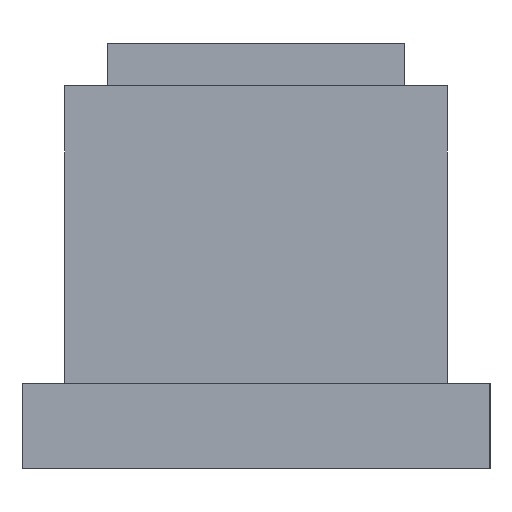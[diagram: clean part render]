
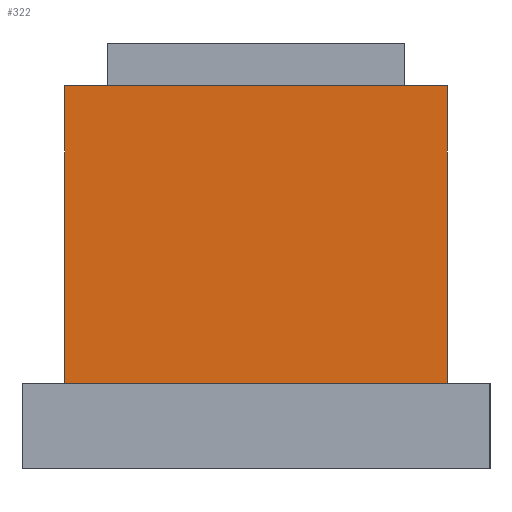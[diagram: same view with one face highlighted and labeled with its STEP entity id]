
A CAD part, left-side view. The second image highlights one B-rep face of the part: STEP entity #322.
In plain terms, the highlighted planar face has unit normal (-1, 0, 0).
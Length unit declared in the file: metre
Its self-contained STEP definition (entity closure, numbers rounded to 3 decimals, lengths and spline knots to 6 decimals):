
#29=FACE_OUTER_BOUND('',#48,.T.);
#48=EDGE_LOOP('',(#240,#241,#242,#243));
#78=LINE('',#497,#118);
#79=LINE('',#499,#119);
#80=LINE('',#501,#120);
#81=LINE('',#502,#121);
#118=VECTOR('',#411,0.01);
#119=VECTOR('',#412,0.01);
#120=VECTOR('',#413,0.01);
#121=VECTOR('',#414,0.01);
#154=VERTEX_POINT('',#495);
#155=VERTEX_POINT('',#496);
#156=VERTEX_POINT('',#498);
#157=VERTEX_POINT('',#500);
#188=EDGE_CURVE('',#154,#155,#78,.T.);
#189=EDGE_CURVE('',#154,#156,#79,.T.);
#190=EDGE_CURVE('',#157,#156,#80,.T.);
#191=EDGE_CURVE('',#155,#157,#81,.T.);
#240=ORIENTED_EDGE('',*,*,#188,.F.);
#241=ORIENTED_EDGE('',*,*,#189,.T.);
#242=ORIENTED_EDGE('',*,*,#190,.F.);
#243=ORIENTED_EDGE('',*,*,#191,.F.);
#303=PLANE('',#360);
#322=ADVANCED_FACE('',(#29),#303,.T.);
#360=AXIS2_PLACEMENT_3D('',#494,#409,#410);
#409=DIRECTION('center_axis',(-1.,0.,0.));
#410=DIRECTION('ref_axis',(0.,-1.,0.));
#411=DIRECTION('',(0.,1.,0.));
#412=DIRECTION('',(0.,0.,1.));
#413=DIRECTION('',(0.,-1.,0.));
#414=DIRECTION('',(0.,0.,1.));
#494=CARTESIAN_POINT('Origin',(-0.115,0.045,0.02));
#495=CARTESIAN_POINT('',(-0.115,-0.045,0.02));
#496=CARTESIAN_POINT('',(-0.115,0.045,0.02));
#497=CARTESIAN_POINT('',(-0.115,0.0225,0.02));
#498=CARTESIAN_POINT('',(-0.115,-0.045,0.09));
#499=CARTESIAN_POINT('',(-0.115,-0.045,0.02));
#500=CARTESIAN_POINT('',(-0.115,0.045,0.09));
#501=CARTESIAN_POINT('',(-0.115,0.045,0.09));
#502=CARTESIAN_POINT('',(-0.115,0.045,0.02));
